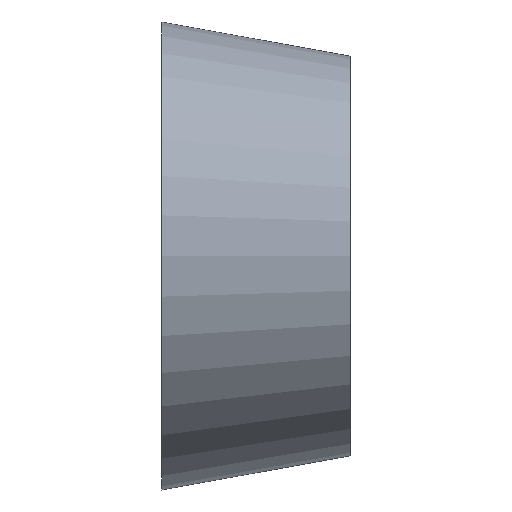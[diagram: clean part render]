
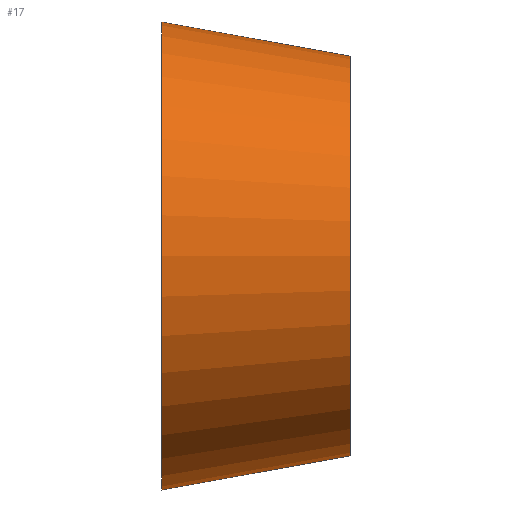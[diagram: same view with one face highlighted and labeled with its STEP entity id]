
A CAD part, front view. The second image highlights one B-rep face of the part: STEP entity #17.
In plain terms, the highlighted free-form (B-spline) face has degree [14, 1] with [15, 2] control points.
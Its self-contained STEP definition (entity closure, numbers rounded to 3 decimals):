
#17 = ADVANCED_FACE('',(#18),#31,.T.);
#18 = FACE_BOUND('',#19,.T.);
#19 = EDGE_LOOP('',(#20,#80,#102,#129));
#20 = ORIENTED_EDGE('',*,*,#21,.T.);
#21 = EDGE_CURVE('',#22,#22,#24,.T.);
#22 = VERTEX_POINT('',#23);
#23 = CARTESIAN_POINT('',(0.,20.5,0.));
#24 = SURFACE_CURVE('',#25,(#30,#68),.PCURVE_S1.);
#25 = CIRCLE('',#26,20.5);
#26 = AXIS2_PLACEMENT_3D('',#27,#28,#29);
#27 = CARTESIAN_POINT('',(0.,0.,0.));
#28 = DIRECTION('',(1.,0.,0.));
#29 = DIRECTION('',(0.,1.,0.));
#30 = PCURVE('',#31,#62);
#31 = B_SPLINE_SURFACE_WITH_KNOTS('',14,1,(
    (#32,#33)
    ,(#34,#35)
    ,(#36,#37)
    ,(#38,#39)
    ,(#40,#41)
    ,(#42,#43)
    ,(#44,#45)
    ,(#46,#47)
    ,(#48,#49)
    ,(#50,#51)
    ,(#52,#53)
    ,(#54,#55)
    ,(#56,#57)
    ,(#58,#59)
    ,(#60,#61
    )),.UNSPECIFIED.,.T.,.F.,.F.,(15,15),(2,2),(0.,6.283),(0.,1.
    ),.PIECEWISE_BEZIER_KNOTS.);
#32 = CARTESIAN_POINT('',(0.,20.5,0.));
#33 = CARTESIAN_POINT('',(16.5,14.5,0.));
#34 = CARTESIAN_POINT('',(0.,20.5,9.2));
#35 = CARTESIAN_POINT('',(16.5,14.5,7.854));
#36 = CARTESIAN_POINT('',(0.,16.053,18.401));
#37 = CARTESIAN_POINT('',(16.5,10.704,
    15.708));
#38 = CARTESIAN_POINT('',(0.,7.16,25.273));
#39 = CARTESIAN_POINT('',(16.5,3.112,21.574)
  );
#40 = CARTESIAN_POINT('',(0.,-4.851,27.488));
#41 = CARTESIAN_POINT('',(16.5,-7.141,23.466
    ));
#42 = CARTESIAN_POINT('',(0.,-17.318,23.554));
#43 = CARTESIAN_POINT('',(16.5,-17.784,
    20.107));
#44 = CARTESIAN_POINT('',(0.,-26.835,13.651));
#45 = CARTESIAN_POINT('',(16.5,-25.908,
    11.653));
#46 = CARTESIAN_POINT('',(0.,-30.418,0.));
#47 = CARTESIAN_POINT('',(16.5,-28.967,
    0.));
#48 = CARTESIAN_POINT('',(0.,-26.835,-13.651));
#49 = CARTESIAN_POINT('',(16.5,-25.908,
    -11.653));
#50 = CARTESIAN_POINT('',(0.,-17.318,-23.554));
#51 = CARTESIAN_POINT('',(16.5,-17.784,
    -20.107));
#52 = CARTESIAN_POINT('',(0.,-4.851,-27.488));
#53 = CARTESIAN_POINT('',(16.5,-7.141,
    -23.466));
#54 = CARTESIAN_POINT('',(0.,7.16,-25.273));
#55 = CARTESIAN_POINT('',(16.5,3.112,-21.574
    ));
#56 = CARTESIAN_POINT('',(0.,16.053,-18.401));
#57 = CARTESIAN_POINT('',(16.5,10.704,-15.708
    ));
#58 = CARTESIAN_POINT('',(0.,20.5,-9.2));
#59 = CARTESIAN_POINT('',(16.5,14.5,
    -7.854));
#60 = CARTESIAN_POINT('',(0.,20.5,0.));
#61 = CARTESIAN_POINT('',(16.5,14.5,0.));
#62 = DEFINITIONAL_REPRESENTATION('',(#63),#67);
#63 = LINE('',#64,#65);
#64 = CARTESIAN_POINT('',(0.,0.));
#65 = VECTOR('',#66,1.);
#66 = DIRECTION('',(1.,0.));
#67 = ( GEOMETRIC_REPRESENTATION_CONTEXT(2) 
PARAMETRIC_REPRESENTATION_CONTEXT() REPRESENTATION_CONTEXT('2D SPACE',''
  ) );
#68 = PCURVE('',#69,#74);
#69 = PLANE('',#70);
#70 = AXIS2_PLACEMENT_3D('',#71,#72,#73);
#71 = CARTESIAN_POINT('',(0.,0.,0.));
#72 = DIRECTION('',(1.,0.,0.));
#73 = DIRECTION('',(0.,1.,0.));
#74 = DEFINITIONAL_REPRESENTATION('',(#75),#79);
#75 = CIRCLE('',#76,20.5);
#76 = AXIS2_PLACEMENT_2D('',#77,#78);
#77 = CARTESIAN_POINT('',(0.,0.));
#78 = DIRECTION('',(1.,0.));
#79 = ( GEOMETRIC_REPRESENTATION_CONTEXT(2) 
PARAMETRIC_REPRESENTATION_CONTEXT() REPRESENTATION_CONTEXT('2D SPACE',''
  ) );
#80 = ORIENTED_EDGE('',*,*,#81,.T.);
#81 = EDGE_CURVE('',#22,#82,#84,.T.);
#82 = VERTEX_POINT('',#83);
#83 = CARTESIAN_POINT('',(16.5,14.5,0.));
#84 = SEAM_CURVE('',#85,(#88,#95),.PCURVE_S1.);
#85 = B_SPLINE_CURVE_WITH_KNOTS('',1,(#86,#87),.UNSPECIFIED.,.F.,.F.,(2,
    2),(0.,1.),.PIECEWISE_BEZIER_KNOTS.);
#86 = CARTESIAN_POINT('',(0.,20.5,0.));
#87 = CARTESIAN_POINT('',(16.5,14.5,0.));
#88 = PCURVE('',#31,#89);
#89 = DEFINITIONAL_REPRESENTATION('',(#90),#94);
#90 = LINE('',#91,#92);
#91 = CARTESIAN_POINT('',(6.283,0.));
#92 = VECTOR('',#93,1.);
#93 = DIRECTION('',(0.,1.));
#94 = ( GEOMETRIC_REPRESENTATION_CONTEXT(2) 
PARAMETRIC_REPRESENTATION_CONTEXT() REPRESENTATION_CONTEXT('2D SPACE',''
  ) );
#95 = PCURVE('',#31,#96);
#96 = DEFINITIONAL_REPRESENTATION('',(#97),#101);
#97 = LINE('',#98,#99);
#98 = CARTESIAN_POINT('',(0.,0.));
#99 = VECTOR('',#100,1.);
#100 = DIRECTION('',(0.,1.));
#101 = ( GEOMETRIC_REPRESENTATION_CONTEXT(2) 
PARAMETRIC_REPRESENTATION_CONTEXT() REPRESENTATION_CONTEXT('2D SPACE',''
  ) );
#102 = ORIENTED_EDGE('',*,*,#103,.F.);
#103 = EDGE_CURVE('',#82,#82,#104,.T.);
#104 = SURFACE_CURVE('',#105,(#110,#117),.PCURVE_S1.);
#105 = CIRCLE('',#106,17.5);
#106 = AXIS2_PLACEMENT_3D('',#107,#108,#109);
#107 = CARTESIAN_POINT('',(16.5,-3.,0.));
#108 = DIRECTION('',(1.,0.,0.));
#109 = DIRECTION('',(0.,1.,0.));
#110 = PCURVE('',#31,#111);
#111 = DEFINITIONAL_REPRESENTATION('',(#112),#116);
#112 = LINE('',#113,#114);
#113 = CARTESIAN_POINT('',(0.,1.));
#114 = VECTOR('',#115,1.);
#115 = DIRECTION('',(1.,0.));
#116 = ( GEOMETRIC_REPRESENTATION_CONTEXT(2) 
PARAMETRIC_REPRESENTATION_CONTEXT() REPRESENTATION_CONTEXT('2D SPACE',''
  ) );
#117 = PCURVE('',#118,#123);
#118 = PLANE('',#119);
#119 = AXIS2_PLACEMENT_3D('',#120,#121,#122);
#120 = CARTESIAN_POINT('',(16.5,-3.,0.));
#121 = DIRECTION('',(1.,0.,0.));
#122 = DIRECTION('',(0.,1.,0.));
#123 = DEFINITIONAL_REPRESENTATION('',(#124),#128);
#124 = CIRCLE('',#125,17.5);
#125 = AXIS2_PLACEMENT_2D('',#126,#127);
#126 = CARTESIAN_POINT('',(0.,0.));
#127 = DIRECTION('',(1.,0.));
#128 = ( GEOMETRIC_REPRESENTATION_CONTEXT(2) 
PARAMETRIC_REPRESENTATION_CONTEXT() REPRESENTATION_CONTEXT('2D SPACE',''
  ) );
#129 = ORIENTED_EDGE('',*,*,#81,.F.);
